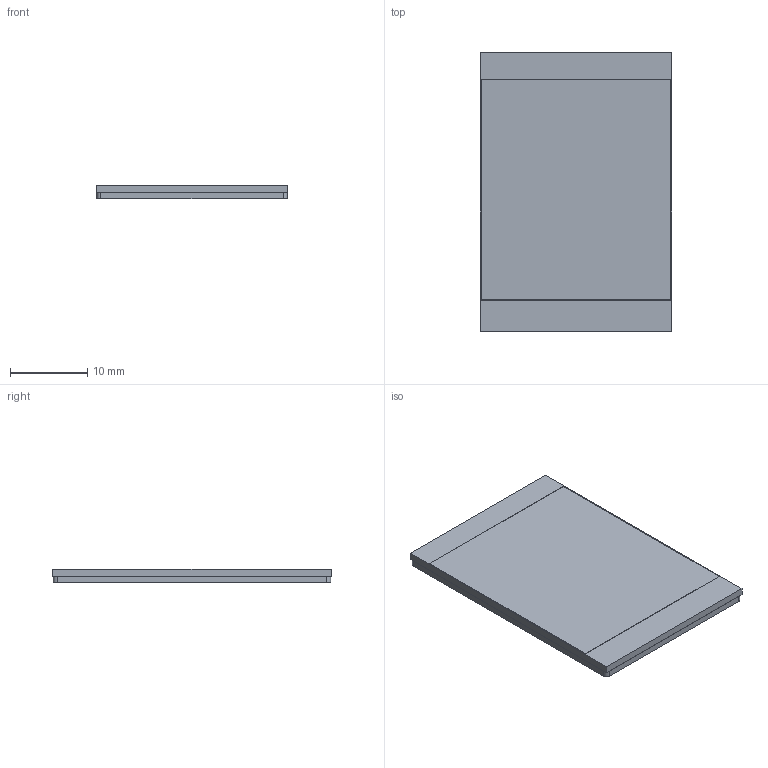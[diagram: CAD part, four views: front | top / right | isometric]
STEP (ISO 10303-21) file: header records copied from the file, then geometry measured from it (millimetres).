
FILE_DESCRIPTION(('Open CASCADE Model'),'2;1');
FILE_NAME('Open CASCADE Shape Model','2026-05-31T19:43:34',('Author'),( 'Open CASCADE'),'Open CASCADE STEP processor 7.6','Open CASCADE 7.6' ,'Unknown');
FILE_SCHEMA(('AP242_MANAGED_MODEL_BASED_3D_ENGINEERING_MIM_LF. {1 0 10303 442 1 1 4 }'));
Length unit declared in the file: millimetre
Products named in the file (2): Socket; Part
Bounding box: 24.85 x 36.1 x 1.8 mm (x, y, z)
Volume: 1594.9 mm3; surface area: 2580.8 mm2
Topology: 2 solids, 2 shells, 25 faces, 60 edges, 40 vertices
Faces by surface type: plane 21, cylinder 4
Entity records: 1516 total; most frequent: CARTESIAN_POINT 254, DIRECTION 232, LINE 156, VECTOR 156, ORIENTED_EDGE 120, PCURVE 120, DEFINITIONAL_REPRESENTATION 120, EDGE_CURVE 60
